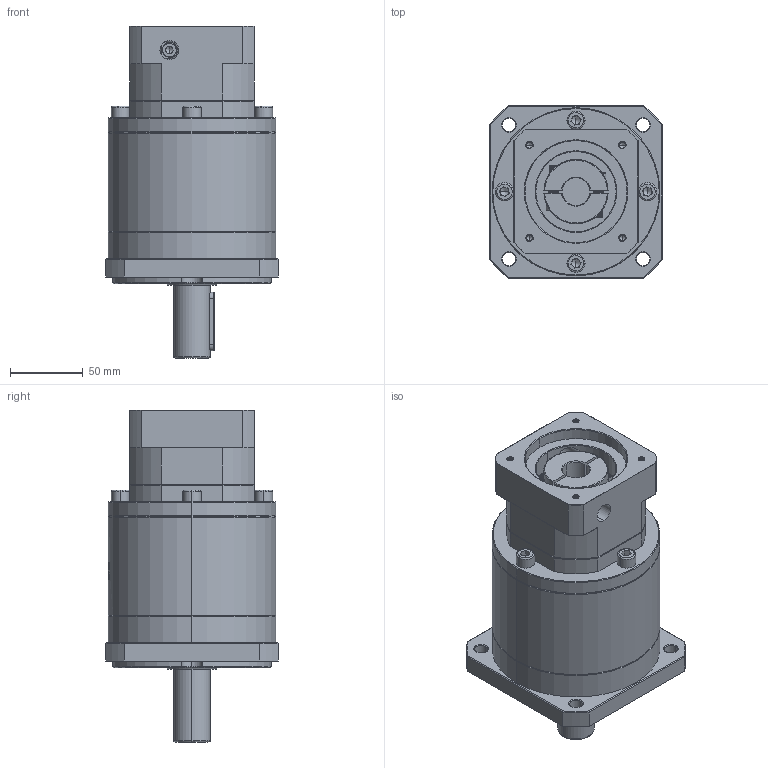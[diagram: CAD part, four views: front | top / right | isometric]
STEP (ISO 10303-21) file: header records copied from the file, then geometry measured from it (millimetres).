
FILE_DESCRIPTION (( 'STEP AP214' ), '1' );
FILE_NAME ('ZF120A-D25-L3-P2-19-70-90-M5.step', '2023-08-27T05:58:25', ( '' ), ( '' ), 'SwSTEP 2.0', 'SolidWorks 2016', '' );
FILE_SCHEMA (( 'AUTOMOTIVE_DESIGN' ));
Length unit declared in the file: millimetre
Products named in the file (1): ZF120A-D25-L3-P2-19-70-90-M5
Bounding box: 118 x 118 x 227.5 mm (x, y, z)
Volume: 1572841.2 mm3; surface area: 136062 mm2
Topology: 5 solids, 5 shells, 2181 faces, 5840 edges, 3755 vertices
Faces by surface type: plane 1054, bspline 434, cylinder 396, cone 297
Entity records: 120310 total; most frequent: CARTESIAN_POINT 47377, ORIENTED_EDGE 11620, DIRECTION 8268, EDGE_CURVE 5810, VERTEX_POINT 3755, LINE 3080, VECTOR 3080, AXIS2_PLACEMENT_3D 2594
